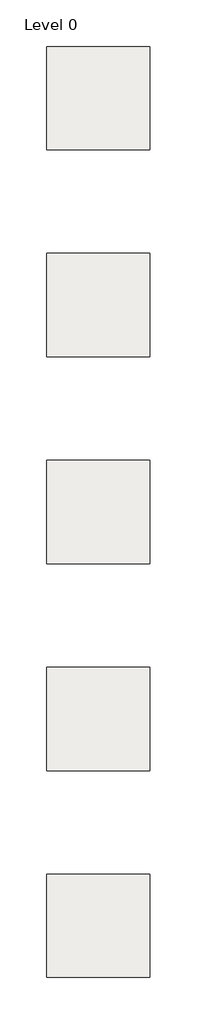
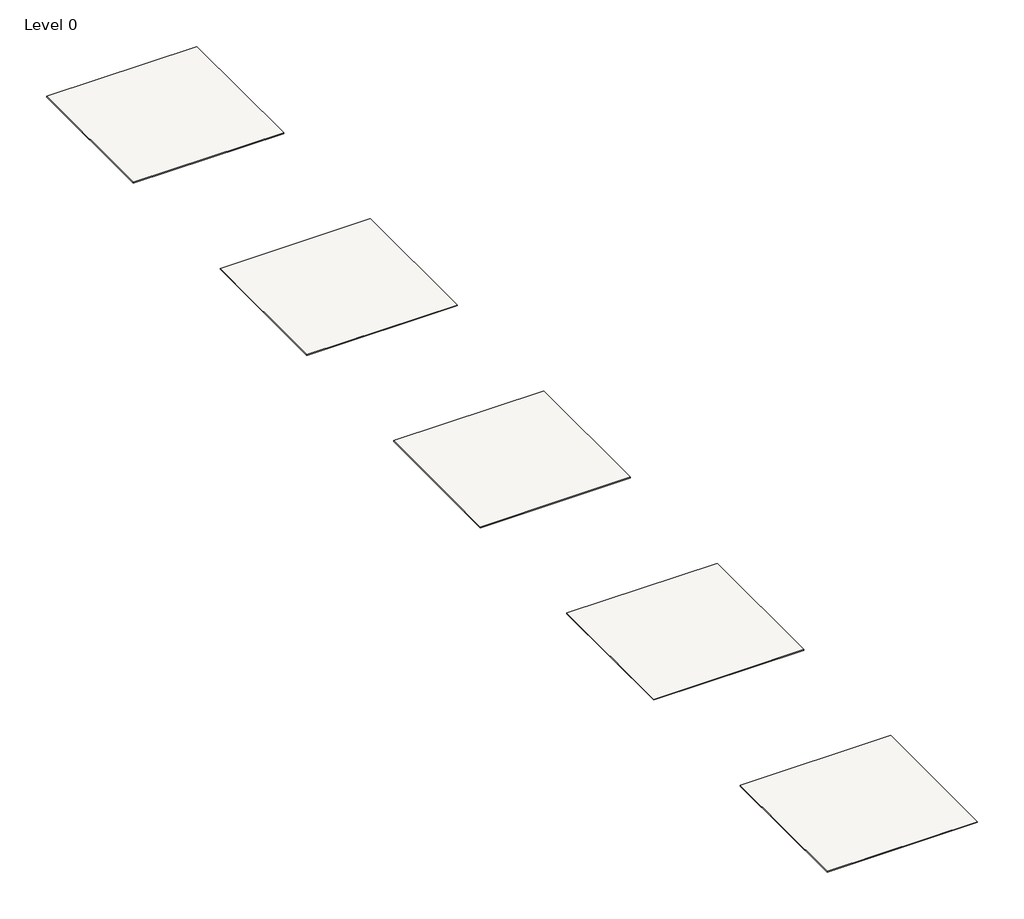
# One storey: 5 coverings.
"""IFC4 building model written with IfcOpenShell, lengths in millimetres."""

from ifc_helpers import new_model, si_unit, origin, origin_with_axes, place, context, project, spatial, polyline, outline, extrude, element, save

model = new_model("IFC4")

# Units and contexts
model_context = context("Model", 3, world=origin())
ifc_project = project(units=[si_unit("LENGTHUNIT", "METRE", prefix="MILLI")], contexts=[model_context])

# Site, building, storey
site = spatial("IfcSite", under=ifc_project)
building = spatial("IfcBuilding", under=site)
storey = spatial("IfcBuildingStorey", under=building, Name="Level 0", Elevation=0.0)

# Coverings
placement = place(None, origin())
element("IfcCovering", 1, ObjectType="NBS_Zentia_ModularSuspendedCeilingSystems_Aruba-NexusLayouts_NexusARRAY", at=placement, inside=storey, context=model_context, shape_type="SweptSolid", body=[
    extrude(outline(polyline([(-976.0, -4024.0), (-976.0, -1524.0), (1524.0, -1524.0), (1524.0, -4024.0), (-976.0, -4024.0)])), origin_with_axes(), (0.0, 0.0, 1.0), 15.0),
])
element("IfcCovering", 2, ObjectType="NBS_Zentia_ModularSuspendedCeilingSystems_Aruba-NexusLayouts_NexusBERG", at=placement, inside=storey, context=model_context, shape_type="SweptSolid", body=[
    extrude(outline(polyline([(-976.0, -9024.0), (-976.0, -6524.0), (1524.0, -6524.0), (1524.0, -9024.0), (-976.0, -9024.0)])), origin_with_axes(), (0.0, 0.0, 1.0), 15.0),
])
element("IfcCovering", 3, ObjectType="NBS_Zentia_ModularSuspendedCeilingSystems_Aruba-NexusLayouts_NexusEXCLAIM", at=placement, inside=storey, context=model_context, shape_type="SweptSolid", body=[
    extrude(outline(polyline([(-976.0, -14024.0), (-976.0, -11524.0), (1524.0, -11524.0), (1524.0, -14024.0), (-976.0, -14024.0)])), origin_with_axes(), (0.0, 0.0, 1.0), 15.0),
])
element("IfcCovering", 4, ObjectType="NBS_Zentia_ModularSuspendedCeilingSystems_Aruba-NexusLayouts_NexusPIXAL", at=placement, inside=storey, context=model_context, shape_type="SweptSolid", body=[
    extrude(outline(polyline([(-976.0, -19024.0), (-976.0, -16524.0), (1524.0, -16524.0), (1524.0, -19024.0), (-976.0, -19024.0)])), origin_with_axes(), (0.0, 0.0, 1.0), 15.0),
])
element("IfcCovering", 5, ObjectType="NBS_Zentia_ModularSuspendedCeilingSystems_Aruba-NexusLayouts_NexusSTEP", at=placement, inside=storey, context=model_context, shape_type="SweptSolid", body=[
    extrude(outline(polyline([(-976.0, -24024.0), (-976.0, -21524.0), (1524.0, -21524.0), (1524.0, -24024.0), (-976.0, -24024.0)])), origin_with_axes(), (0.0, 0.0, 1.0), 15.0),
])

save(model, "model.ifc")
